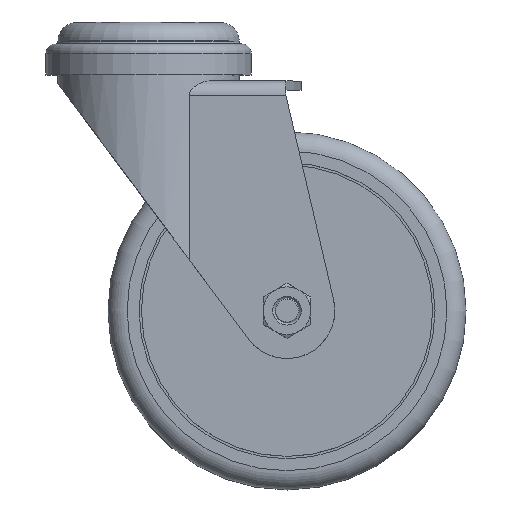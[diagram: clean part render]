
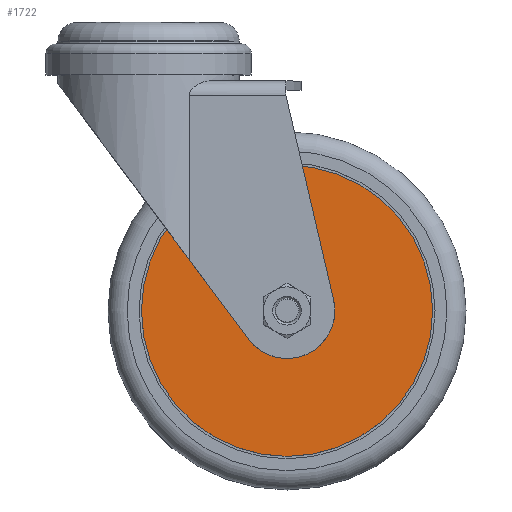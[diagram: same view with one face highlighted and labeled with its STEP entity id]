
A CAD part, top view. The second image highlights one B-rep face of the part: STEP entity #1722.
In plain terms, the highlighted planar face has unit normal (0, 0, 1).
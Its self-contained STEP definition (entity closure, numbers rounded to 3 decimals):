
#106=PLANE('',#2075);
#191=CIRCLE('',#2074,10.);
#192=CIRCLE('',#2076,30.5);
#509=ORIENTED_EDGE('',*,*,#841,.T.);
#510=ORIENTED_EDGE('',*,*,#840,.F.);
#840=EDGE_CURVE('',#1033,#1033,#191,.T.);
#841=EDGE_CURVE('',#1034,#1034,#192,.T.);
#1033=VERTEX_POINT('',#3022);
#1034=VERTEX_POINT('',#3025);
#1357=EDGE_LOOP('',(#509));
#1358=EDGE_LOOP('',(#510));
#1541=FACE_BOUND('',#1357,.T.);
#1542=FACE_BOUND('',#1358,.T.);
#1722=ADVANCED_FACE('',(#1541,#1542),#106,.T.);
#2074=AXIS2_PLACEMENT_3D('',#3021,#2482,#2483);
#2075=AXIS2_PLACEMENT_3D('',#3023,#2484,#2485);
#2076=AXIS2_PLACEMENT_3D('',#3024,#2486,#2487);
#2482=DIRECTION('',(0.,0.,1.));
#2483=DIRECTION('',(1.,0.,0.));
#2484=DIRECTION('',(0.,0.,1.));
#2485=DIRECTION('',(1.,0.,0.));
#2486=DIRECTION('',(0.,0.,1.));
#2487=DIRECTION('',(1.,0.,0.));
#3021=CARTESIAN_POINT('',(0.,0.,13.5));
#3022=CARTESIAN_POINT('',(10.,0.,13.5));
#3023=CARTESIAN_POINT('',(10.,0.,13.5));
#3024=CARTESIAN_POINT('',(0.,0.,13.5));
#3025=CARTESIAN_POINT('',(30.5,0.,13.5));
